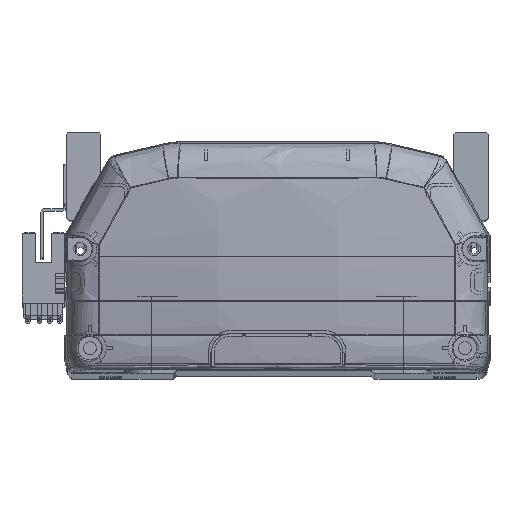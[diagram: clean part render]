
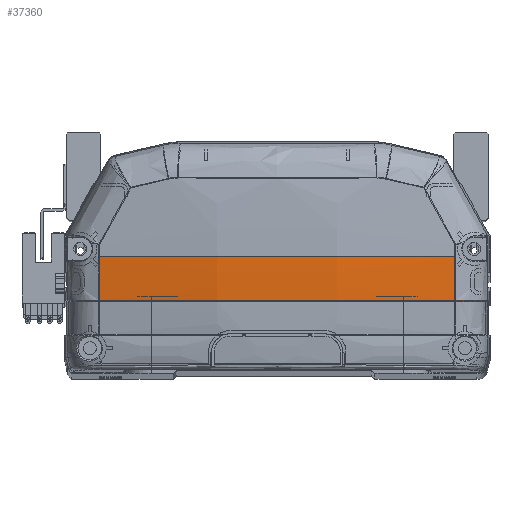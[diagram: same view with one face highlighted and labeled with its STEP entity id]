
A CAD part, top view. The second image highlights one B-rep face of the part: STEP entity #37360.
In plain terms, the highlighted free-form (B-spline) face has degree [3, 3] with [4, 4] control points.
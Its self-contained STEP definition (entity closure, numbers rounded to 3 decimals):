
#173 = CARTESIAN_POINT ( 'NONE',  ( -56.661, 22.225, -4.818 ) ) ;
#1363 = CARTESIAN_POINT ( 'NONE',  ( 57.335, 22.148, -4.7 ) ) ;
#5458 = CARTESIAN_POINT ( 'NONE',  ( -57.335, 36., -5.042 ) ) ;
#5593 = VERTEX_POINT ( 'NONE', #40808 ) ;
#5653 = CARTESIAN_POINT ( 'NONE',  ( 57.335, 26.762, -4.928 ) ) ;
#6413 = CARTESIAN_POINT ( 'NONE',  ( -56.652, 26.814, -5.045 ) ) ;
#7670 = ORIENTED_EDGE ( 'NONE', *, *, #41461, .F. ) ;
#8353 = CARTESIAN_POINT ( 'NONE',  ( 4.761, 22.225, -9.537 ) ) ;
#8521 = CIRCLE ( 'NONE', #27122, 340.733 ) ;
#9230 = EDGE_CURVE ( 'NONE', #11433, #15508, #50825, .T. ) ;
#9621 = CARTESIAN_POINT ( 'NONE',  ( 56.647, 35.969, -5.158 ) ) ;
#10139 = CARTESIAN_POINT ( 'NONE',  ( 19.295, 31.274, -11.535 ) ) ;
#10448 = VERTEX_POINT ( 'NONE', #9621 ) ;
#11105 = CARTESIAN_POINT ( 'NONE',  ( -56.661, 22.225, -4.818 ) ) ;
#11433 = VERTEX_POINT ( 'NONE', #49509 ) ;
#11900 = CARTESIAN_POINT ( 'NONE',  ( 6452.613, 35.969, -5.158 ) ) ;
#13040 = DIRECTION ( 'NONE',  ( 0., 0., -1. ) ) ;
#13207 = FACE_OUTER_BOUND ( 'NONE', #34310, .T. ) ;
#13440 = DIRECTION ( 'NONE',  ( -1., 0., 0. ) ) ;
#13813 = CARTESIAN_POINT ( 'NONE',  ( 56.647, 35.969, -5.158 ) ) ;
#14247 = CARTESIAN_POINT ( 'NONE',  ( -19.295, 26.549, -11.419 ) ) ;
#14542 = CARTESIAN_POINT ( 'NONE',  ( 56.647, 31.387, -5.158 ) ) ;
#15508 = VERTEX_POINT ( 'NONE', #173 ) ;
#20032 =( BOUNDED_SURFACE ( )  B_SPLINE_SURFACE ( 3, 3, ( 
 ( #1363, #5653, #27579, #36999 ),
 ( #28346, #54498, #10139, #36614 ),
 ( #41122, #14247, #23300, #45639 ),
 ( #32682, #54700, #27770, #5458 ) ),
 .UNSPECIFIED., .F., .F., .F. ) 
 B_SPLINE_SURFACE_WITH_KNOTS ( ( 4, 4 ),
 ( 4, 4 ),
 ( 0., 1. ),
 ( 0., 1. ),
 .UNSPECIFIED. ) 
 GEOMETRIC_REPRESENTATION_ITEM ( )  RATIONAL_B_SPLINE_SURFACE ( (
 ( 1., 1., 1., 1.),
 ( 0.99, 0.99, 0.99, 0.99),
 ( 0.99, 0.99, 0.99, 0.99),
 ( 1., 1., 1., 1.) ) ) 
 REPRESENTATION_ITEM ( '' )  SURFACE ( )  );
#20034 = CARTESIAN_POINT ( 'NONE',  ( -56.647, 36., -5.158 ) ) ;
#21507 = CARTESIAN_POINT ( 'NONE',  ( -19.28, 22.225, -9.565 ) ) ;
#22128 = ORIENTED_EDGE ( 'NONE', *, *, #57284, .F. ) ;
#22546 = CARTESIAN_POINT ( 'NONE',  ( 56.652, 26.806, -5.044 ) ) ;
#23300 = CARTESIAN_POINT ( 'NONE',  ( -19.295, 31.274, -11.535 ) ) ;
#23554 = ORIENTED_EDGE ( 'NONE', *, *, #55556, .F. ) ;
#25507 = VERTEX_POINT ( 'NONE', #20034 ) ;
#25787 = CARTESIAN_POINT ( 'NONE',  ( 56.661, 22.225, -4.818 ) ) ;
#26626 = EDGE_CURVE ( 'NONE', #11433, #10448, #26747, .T. ) ;
#26747 = B_SPLINE_CURVE_WITH_KNOTS ( 'NONE', 3,
 ( #52546, #22546, #14542, #13813 ),
 .UNSPECIFIED., .F., .F.,
 ( 4, 4 ),
 ( 0., 1. ),
 .UNSPECIFIED. ) ;
#27122 = AXIS2_PLACEMENT_3D ( 'NONE', #45758, #55207, #32617 ) ;
#27579 = CARTESIAN_POINT ( 'NONE',  ( 57.335, 31.38, -5.042 ) ) ;
#27770 = CARTESIAN_POINT ( 'NONE',  ( -57.335, 31.38, -5.042 ) ) ;
#27825 = AXIS2_PLACEMENT_3D ( 'NONE', #11900, #13040, #13440 ) ;
#28346 = CARTESIAN_POINT ( 'NONE',  ( 19.295, 21.828, -11.186 ) ) ;
#30123 = ORIENTED_EDGE ( 'NONE', *, *, #9230, .T. ) ;
#30298 = CARTESIAN_POINT ( 'NONE',  ( 23.877, 22.225, -8.763 ) ) ;
#31864 = ORIENTED_EDGE ( 'NONE', *, *, #26626, .F. ) ;
#32617 = DIRECTION ( 'NONE',  ( 0., 0., -1. ) ) ;
#32682 = CARTESIAN_POINT ( 'NONE',  ( -57.335, 22.148, -4.7 ) ) ;
#32878 = CARTESIAN_POINT ( 'NONE',  ( -56.647, 31.405, -5.158 ) ) ;
#34310 = EDGE_LOOP ( 'NONE', ( #22128, #23554, #31864, #30123, #7670 ) ) ;
#35223 = CIRCLE ( 'NONE', #27825, 6395.966 ) ;
#35384 = CARTESIAN_POINT ( 'NONE',  ( -56.661, 22.225, -4.818 ) ) ;
#35589 = CARTESIAN_POINT ( 'NONE',  ( 38.071, 22.225, -7.566 ) ) ;
#36614 = CARTESIAN_POINT ( 'NONE',  ( 19.295, 36., -11.535 ) ) ;
#36999 = CARTESIAN_POINT ( 'NONE',  ( 57.335, 36., -5.042 ) ) ;
#37360 = ADVANCED_FACE ( 'NONE', ( #13207 ), #20032, .T. ) ;
#39700 = CARTESIAN_POINT ( 'NONE',  ( 11.954, 22.225, -9.367 ) ) ;
#40808 = CARTESIAN_POINT ( 'NONE',  ( 56.647, 36., -5.158 ) ) ;
#41122 = CARTESIAN_POINT ( 'NONE',  ( -19.295, 21.828, -11.186 ) ) ;
#41461 = EDGE_CURVE ( 'NONE', #25507, #15508, #44679, .T. ) ;
#44679 = B_SPLINE_CURVE_WITH_KNOTS ( 'NONE', 3,
 ( #55276, #32878, #6413, #11105 ),
 .UNSPECIFIED., .F., .F.,
 ( 4, 4 ),
 ( 0., 1. ),
 .UNSPECIFIED. ) ;
#45639 = CARTESIAN_POINT ( 'NONE',  ( -19.295, 36., -11.535 ) ) ;
#45758 = CARTESIAN_POINT ( 'NONE',  ( 0., 36., 330.833 ) ) ;
#48749 = CARTESIAN_POINT ( 'NONE',  ( 2.357, 22.225, -9.562 ) ) ;
#48945 = CARTESIAN_POINT ( 'NONE',  ( 8.363, 22.225, -9.48 ) ) ;
#49143 = CARTESIAN_POINT ( 'NONE',  ( 1.152, 22.225, -9.568 ) ) ;
#49509 = CARTESIAN_POINT ( 'NONE',  ( 56.661, 22.225, -4.818 ) ) ;
#50825 = B_SPLINE_CURVE_WITH_KNOTS ( 'NONE', 3,
 ( #25787, #53281, #35589, #30298, #58011, #39700, #48945, #8353, #48749, #49143, #21507, #57223, #35384 ),
 .UNSPECIFIED., .F., .F.,
 ( 4, 2, 2, 1, 2, 2, 4 ),
 ( 0., 0.25, 0.375, 0.438, 0.469, 0.5, 1. ),
 .UNSPECIFIED. ) ;
#52546 = CARTESIAN_POINT ( 'NONE',  ( 56.661, 22.225, -4.818 ) ) ;
#53281 = CARTESIAN_POINT ( 'NONE',  ( 47.432, 22.225, -6.377 ) ) ;
#54498 = CARTESIAN_POINT ( 'NONE',  ( 19.295, 26.549, -11.419 ) ) ;
#54700 = CARTESIAN_POINT ( 'NONE',  ( -57.335, 26.762, -4.928 ) ) ;
#55207 = DIRECTION ( 'NONE',  ( 0., 1., 0. ) ) ;
#55276 = CARTESIAN_POINT ( 'NONE',  ( -56.647, 36., -5.158 ) ) ;
#55556 = EDGE_CURVE ( 'NONE', #10448, #5593, #35223, .T. ) ;
#57223 = CARTESIAN_POINT ( 'NONE',  ( -38.235, 22.225, -7.93 ) ) ;
#57284 = EDGE_CURVE ( 'NONE', #5593, #25507, #8521, .T. ) ;
#58011 = CARTESIAN_POINT ( 'NONE',  ( 19.121, 22.225, -9.064 ) ) ;
